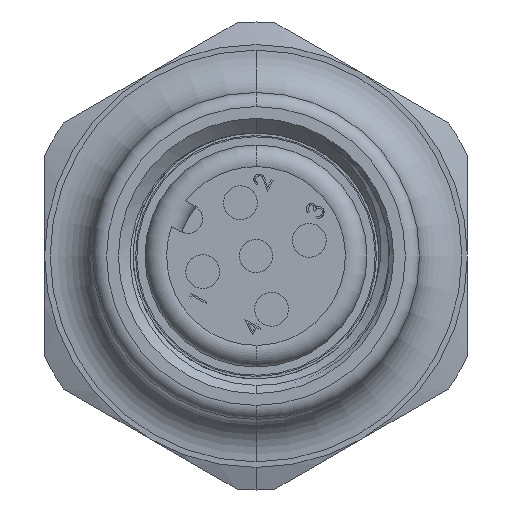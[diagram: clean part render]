
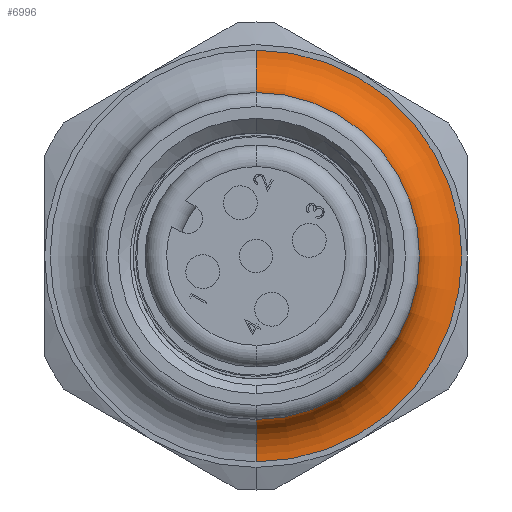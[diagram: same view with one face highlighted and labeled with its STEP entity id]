
A CAD part, left-side view. The second image highlights one B-rep face of the part: STEP entity #6996.
In plain terms, the highlighted toroidal (fillet/blend) face has major radius 9.271 mm and minor radius 1.905 mm.
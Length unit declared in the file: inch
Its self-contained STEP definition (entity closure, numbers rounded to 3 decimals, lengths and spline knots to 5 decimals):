
#287 = EDGE_LOOP ( 'NONE', ( #3671, #7298, #7283, #7289 ) ) ;
#2955 = CARTESIAN_POINT ( 'NONE',  ( 0.318, 0., 0. ) ) ;
#2956 = DIRECTION ( 'NONE',  ( -1., 0., 0. ) ) ;
#2957 = DIRECTION ( 'NONE',  ( 0., 0., 1. ) ) ;
#3058 = CIRCLE ( 'NONE', #14291, 0.365 ) ;
#3107 = CIRCLE ( 'NONE', #14278, 0.075 ) ;
#3239 = CIRCLE ( 'NONE', #14231, 0.075 ) ;
#3375 = FACE_OUTER_BOUND ( 'NONE', #287, .T. ) ;
#3380 = TOROIDAL_SURFACE ( 'NONE', #6143, 0.365, 0.075 ) ;
#3671 = ORIENTED_EDGE ( 'NONE', *, *, #4564, .F. ) ;
#4564 = EDGE_CURVE ( 'NONE', #8267, #8257, #11092, .T. ) ;
#4597 = EDGE_CURVE ( 'NONE', #8297, #8298, #3058, .T. ) ;
#4636 = EDGE_CURVE ( 'NONE', #8257, #8298, #3107, .T. ) ;
#4755 = EDGE_CURVE ( 'NONE', #8267, #8297, #3239, .T. ) ;
#6143 = AXIS2_PLACEMENT_3D ( 'NONE', #9739, #9760, #9761 ) ;
#6996 = ADVANCED_FACE ( 'NONE', ( #3375 ), #3380, .F. ) ;
#7283 = ORIENTED_EDGE ( 'NONE', *, *, #4597, .T. ) ;
#7289 = ORIENTED_EDGE ( 'NONE', *, *, #4636, .F. ) ;
#7298 = ORIENTED_EDGE ( 'NONE', *, *, #4755, .T. ) ;
#8257 = VERTEX_POINT ( 'NONE', #15239 ) ;
#8267 = VERTEX_POINT ( 'NONE', #15252 ) ;
#8297 = VERTEX_POINT ( 'NONE', #15290 ) ;
#8298 = VERTEX_POINT ( 'NONE', #15291 ) ;
#8624 = CARTESIAN_POINT ( 'NONE',  ( 0.318, 0., -0.365 ) ) ;
#8625 = DIRECTION ( 'NONE',  ( 0., 1., 0. ) ) ;
#8626 = DIRECTION ( 'NONE',  ( 0., 0., 1. ) ) ;
#9739 = CARTESIAN_POINT ( 'NONE',  ( 0.318, 0., 0. ) ) ;
#9760 = DIRECTION ( 'NONE',  ( -1., 0., 0. ) ) ;
#9761 = DIRECTION ( 'NONE',  ( 0., 0., 1. ) ) ;
#11092 = CIRCLE ( 'NONE', #14329, 0.29 ) ;
#11159 = CARTESIAN_POINT ( 'NONE',  ( 0.393, 0., 0. ) ) ;
#11160 = DIRECTION ( 'NONE',  ( -1., 0., 0. ) ) ;
#11161 = DIRECTION ( 'NONE',  ( 0., 0., 1. ) ) ;
#11320 = CARTESIAN_POINT ( 'NONE',  ( 0.318, 0., 0.365 ) ) ;
#11321 = DIRECTION ( 'NONE',  ( 0., -1., 0. ) ) ;
#11322 = DIRECTION ( 'NONE',  ( 0., 0., -1. ) ) ;
#14231 = AXIS2_PLACEMENT_3D ( 'NONE', #8624, #8625, #8626 ) ;
#14278 = AXIS2_PLACEMENT_3D ( 'NONE', #11320, #11321, #11322 ) ;
#14291 = AXIS2_PLACEMENT_3D ( 'NONE', #11159, #11160, #11161 ) ;
#14329 = AXIS2_PLACEMENT_3D ( 'NONE', #2955, #2956, #2957 ) ;
#15239 = CARTESIAN_POINT ( 'NONE',  ( 0.318, 0., 0.29 ) ) ;
#15252 = CARTESIAN_POINT ( 'NONE',  ( 0.318, 0., -0.29 ) ) ;
#15290 = CARTESIAN_POINT ( 'NONE',  ( 0.393, 0., -0.365 ) ) ;
#15291 = CARTESIAN_POINT ( 'NONE',  ( 0.393, 0., 0.365 ) ) ;
